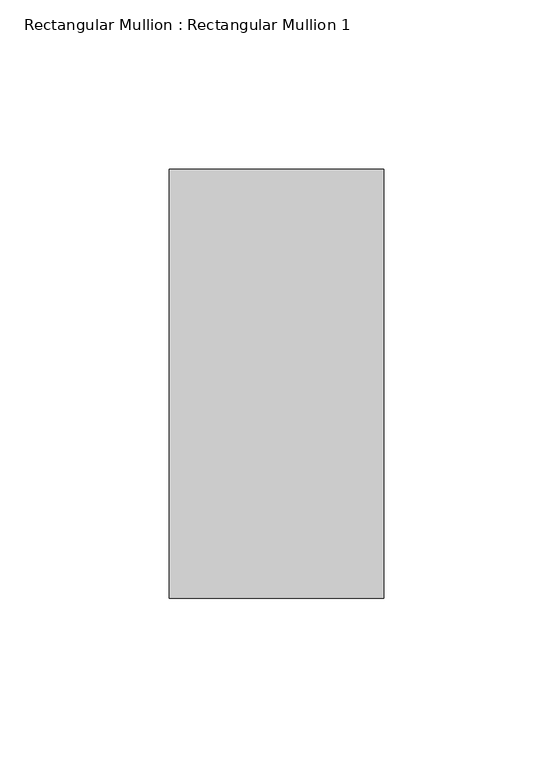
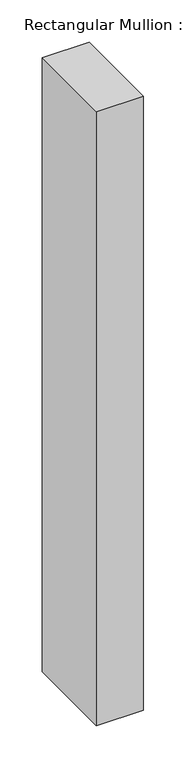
"""IFC4 building model written with IfcOpenShell, lengths in millimetres: member geometry, Rectangular Mullion : Rectangular Mullion 1."""

from ifc_helpers import new_model, si_unit, frame, origin, place, context, project, spatial, polyline, outline, extrude, source, transform, mapped, element, save


def rectangular_mullion_rectangular_mullion_1_5cd4c5ac(model_context):
    return source(origin(), model_context, "Body", "SweptSolid", [
        extrude(outline(polyline([(0.0, 63.5), (0.0, -63.5), (-63.5, -63.5), (-63.5, 63.5), (0.0, 63.5)])), frame((0.0, 0.0, -882.65), z_axis=(0.0, 0.0, 1.0), x_axis=(1.0, 0.0, 0.0)), (0.0, 0.0, 1.0), 882.65),
    ])


if __name__ == "__main__":
    model = new_model("IFC4")
    model_context = context("Model", 3, world=origin())
    ifc_project = project(units=[si_unit("LENGTHUNIT", "METRE", prefix="MILLI")], contexts=[model_context])
    site = spatial("IfcSite", under=ifc_project)
    building = spatial("IfcBuilding", under=site)
    placement = place(None, origin())
    rectangular_mullion_rectangular_mullion_1_shape = rectangular_mullion_rectangular_mullion_1_5cd4c5ac(model_context)
    element("IfcMember", 1, ObjectType="Rectangular Mullion : Rectangular Mullion 1", at=placement, inside=building, context=model_context, shape_type="MappedRepresentation", body=[
        mapped(rectangular_mullion_rectangular_mullion_1_shape, transform((0.0, 0.0, 0.0), x_axis=(1.0, 0.0, 0.0), y_axis=(0.0, 1.0, 0.0), z_axis=(0.0, 0.0, 1.0))),
    ])
    save(model, "model.ifc")
